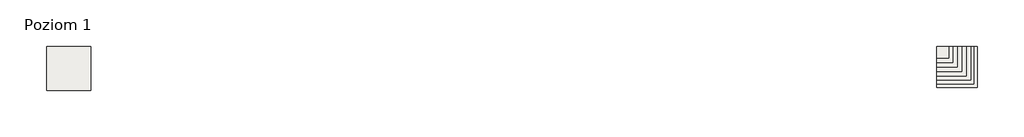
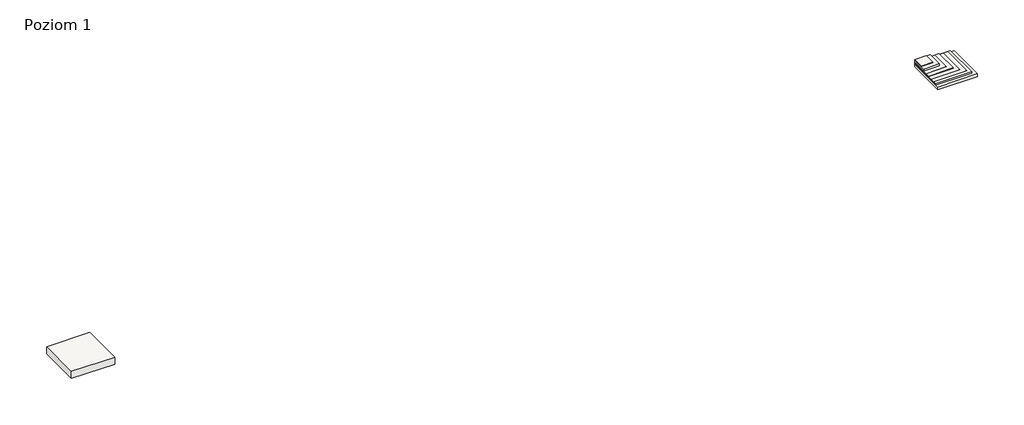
# One storey: 2 roofs.
"""IFC4 building model written with IfcOpenShell, lengths in millimetres."""

import ifcopenshell
import ifcopenshell.guid

model = None  # the IFC model being written
_history = None  # IfcOwnerHistory: only IFC2X3 demands one
_inside = {}  # id of a spatial element -> (the spatial element, [elements in it])
_under = {}  # id of a project, library or spatial element -> (it, [spatial elements below it])
_declared = {}  # id of a project -> (the project, [libraries it declares])
_typed = {}  # id of a type object -> (the type object, [elements of that type])
_made_of = {}  # id of a material, layer set ... -> (it, [elements and type objects made of it])


def new_model(schema):
    """Start an empty IFC model of exactly this schema.

    Asked for "IFC4X3", IfcOpenShell would pick the latest addendum, in which some entities
    have other attributes; the version numbers below select the first issue.
    IFC2X3 requires an IfcOwnerHistory on every rooted entity: one is made here for all.
    """
    global model, _history
    if schema == "IFC4X3":
        model = ifcopenshell.file(schema_version=(4, 3, 0, 0))
    else:
        model = ifcopenshell.file(schema=schema)
    _inside.clear()
    _under.clear()
    _declared.clear()
    _typed.clear()
    _made_of.clear()
    _history = None
    if model.schema == "IFC2X3":
        org = make("IfcOrganization", Name="unknown")
        user = make(
            "IfcPersonAndOrganization",
            ThePerson=make("IfcPerson", FamilyName="unknown"),
            TheOrganization=org,
        )
        app = make(
            "IfcApplication",
            ApplicationDeveloper=org,
            Version="unknown",
            ApplicationFullName="unknown",
            ApplicationIdentifier="unknown",
        )
        _history = make(
            "IfcOwnerHistory",
            OwningUser=user,
            OwningApplication=app,
            ChangeAction="ADDED",
            CreationDate=0,
        )
    return model


def make(cls, **values):
    """One entity of the class cls with the attributes given. An attribute that is None is left unset."""
    return model.create_entity(
        cls, **{name: value for name, value in values.items() if value is not None}
    )


def rooted(cls, **values):
    """An entity with a GlobalId (a new one), such as an element, a storey or a relation."""
    return make(cls, GlobalId=ifcopenshell.guid.new(), OwnerHistory=_history, **values)


def si_unit(unit_type, name, prefix=None):
    """IfcSIUnit, for example si_unit("LENGTHUNIT", "METRE", prefix="MILLI")."""
    return make("IfcSIUnit", UnitType=unit_type, Prefix=prefix, Name=name)


def assignment(units):
    """IfcUnitAssignment: the units of a project."""
    return None if units is None else make("IfcUnitAssignment", Units=units)


def point(xyz):
    """IfcCartesianPoint."""
    return None if xyz is None else make("IfcCartesianPoint", Coordinates=xyz)


def direction(xyz):
    """IfcDirection."""
    return None if xyz is None else make("IfcDirection", DirectionRatios=xyz)


def frame(location, z_axis=None, x_axis=None):
    """IfcAxis2Placement3D, a coordinate frame: its origin and axes. An axis left out is left unset."""
    return make(
        "IfcAxis2Placement3D",
        Location=point(location),
        Axis=direction(z_axis),
        RefDirection=direction(x_axis),
    )


def origin():
    """The frame at (0, 0, 0) with its axes left unset."""
    return frame((0.0, 0.0, 0.0))


def origin_with_axes():
    """The frame at (0, 0, 0) with the z axis (0, 0, 1) and the x axis (1, 0, 0) written out."""
    return frame((0.0, 0.0, 0.0), z_axis=(0.0, 0.0, 1.0), x_axis=(1.0, 0.0, 0.0))


def place(relative_to, where):
    """IfcLocalPlacement: puts the frame where relative to a parent placement (None: the world)."""
    return make(
        "IfcLocalPlacement", PlacementRelTo=relative_to, RelativePlacement=where
    )


def context(
    kind, dimensions, precision=None, world=None, true_north=None, identifier=None
):
    """IfcGeometricRepresentationContext, for example the 3D "Model" context."""
    return make(
        "IfcGeometricRepresentationContext",
        ContextIdentifier=identifier,
        ContextType=kind,
        CoordinateSpaceDimension=dimensions,
        Precision=precision,
        WorldCoordinateSystem=world,
        TrueNorth=true_north,
    )


def project(units=None, contexts=None):
    """IfcProject with its units and contexts."""
    return rooted(
        "IfcProject",
        Name="project",
        RepresentationContexts=contexts,
        UnitsInContext=assignment(units),
    )


def spatial(cls, under=None, at=None, **own):
    """A site, building, storey or space (cls), placed at a placement, below another one or the project."""
    s = rooted(cls, ObjectPlacement=at, **own)
    if under is not None:
        _under.setdefault(under.id(), (under, []))[1].append(s)
    return s


def polyline(points):
    """IfcPolyline through the points."""
    return make("IfcPolyline", Points=[point(p) for p in points])


def outline(outer, holes=None, kind="AREA"):
    """IfcArbitraryClosedProfileDef: a profile drawn as a closed curve; with holes, ...WithVoids."""
    if holes is None:
        return make("IfcArbitraryClosedProfileDef", ProfileType=kind, OuterCurve=outer)
    return make(
        "IfcArbitraryProfileDefWithVoids",
        ProfileType=kind,
        OuterCurve=outer,
        InnerCurves=holes,
    )


def extrude(swept, where, along, depth):
    """IfcExtrudedAreaSolid: the profile swept, set in the frame where, extruded along a direction by depth."""
    return make(
        "IfcExtrudedAreaSolid",
        SweptArea=swept,
        Position=where,
        ExtrudedDirection=direction(along),
        Depth=depth,
    )


def shape(context_of_items, identifier, shape_type, items):
    """IfcShapeRepresentation: the items that make up one representation, for example the "Body"."""
    return make(
        "IfcShapeRepresentation",
        ContextOfItems=context_of_items,
        RepresentationIdentifier=identifier,
        RepresentationType=shape_type,
        Items=items,
    )


def made_of(thing, what):
    """Note that an element or type object is made of a material, layer set ...; save() writes the relation."""
    if what is not None:
        _made_of.setdefault(what.id(), (what, []))[1].append(thing)
    return thing


def element(
    cls,
    number,
    at=None,
    inside=None,
    cuts=None,
    type_object=None,
    material=None,
    context=None,
    identifier="Body",
    shape_type=None,
    held_by="IfcProductDefinitionShape",
    body=None,
    shapes=None,
    **own,
):
    """One element of the class cls, such as IfcWall. Its Tag is "e" and its number.

    at: its placement. inside: the storey or other place that contains it. cuts: it is an
    opening in that element (IfcRelVoidsElement). A single representation is given by context,
    identifier, shape_type and body (its items); several are given by shapes. held_by: the class
    of the entity that holds the representations. save() writes the other relations.
    """
    e = rooted(cls, Tag="e%d" % number, ObjectPlacement=at, **own)
    if body is not None:
        shapes = [shape(context, identifier, shape_type, body)]
    if shapes is not None:
        e.Representation = make(held_by, Representations=shapes)
    if inside is not None:
        _inside.setdefault(inside.id(), (inside, []))[1].append(e)
    if cuts is not None:
        rooted(
            "IfcRelVoidsElement", RelatingBuildingElement=cuts, RelatedOpeningElement=e
        )
    if type_object is not None:
        _typed.setdefault(type_object.id(), (type_object, []))[1].append(e)
    return made_of(e, material)


def aggregate(whole, parts):
    """IfcRelAggregates: a whole, such as a stair, and the parts it consists of."""
    return rooted("IfcRelAggregates", RelatingObject=whole, RelatedObjects=parts)


def save(model, path):
    """Write the relations noted so far, then the file.

    IfcRelAggregates (storeys below a building ...), IfcRelContainedInSpatialStructure (elements
    in a storey), IfcRelDefinesByType, IfcRelAssociatesMaterial and IfcRelDeclares: one each for
    every whole, place, type object, material and project.
    """
    for whole, parts in _under.values():
        aggregate(whole, parts)
    for where, things in _inside.values():
        rooted(
            "IfcRelContainedInSpatialStructure",
            RelatedElements=things,
            RelatingStructure=where,
        )
    for kind, things in _typed.values():
        rooted("IfcRelDefinesByType", RelatedObjects=things, RelatingType=kind)
    for what, things in _made_of.values():
        rooted("IfcRelAssociatesMaterial", RelatedObjects=things, RelatingMaterial=what)
    for by, libraries in _declared.values():
        rooted("IfcRelDeclares", RelatingContext=by, RelatedDefinitions=libraries)
    model.write(path)


model = new_model("IFC4")

# Units and contexts
model_context = context("Model", 3, world=origin())
ifc_project = project(units=[si_unit("LENGTHUNIT", "METRE", prefix="MILLI")], contexts=[model_context])

# Site, building, storey
site = spatial("IfcSite", under=ifc_project)
building = spatial("IfcBuilding", under=site)
storey = spatial("IfcBuildingStorey", under=building, Name="Poziom 1", Elevation=0.0)

# Roofs
placement = place(None, origin())
element("IfcRoof", 1, ObjectType="Dachy zielone w uprawie półintensywnej – Atus CRICKET 40 - układ tradycyjny", at=placement, inside=storey, context=model_context, shape_type="SweptSolid", body=[
    extrude(outline(polyline([(-16494.8444454, -525.5470033), (-13494.8444454, -525.5470033), (-13494.8444454, -3525.5470033), (-16494.8444454, -3525.5470033), (-16494.8444454, -525.5470033)])), origin_with_axes(), (0.0, 0.0, 1.0), 521.0),
])
element("IfcRoof", 2, ObjectType="Dachy zielone w uprawie półintensywnej – Atus CRICKET 40 - układ tradycyjny", at=placement, inside=storey, context=model_context, shape_type="SweptSolid", body=[
    extrude(outline(polyline([(43905.1555546, -525.5470033), (44705.1555546, -525.5470033), (44705.1555546, -1325.5470033), (43905.1555546, -1325.5470033), (43905.1555546, -525.5470033)])), frame((0.0, 0.0, 496.0), z_axis=(0.0, 0.0, 1.0), x_axis=(1.0, 0.0, 0.0)), (0.0, 0.0, 1.0), 25.0),
    extrude(outline(polyline([(43905.1555546, -525.5470033), (45005.1555546, -525.5470033), (45005.1555546, -1625.5470033), (43905.1555546, -1625.5470033), (43905.1555546, -525.5470033)])), frame((0.0, 0.0, 346.0), z_axis=(0.0, 0.0, 1.0), x_axis=(1.0, 0.0, 0.0)), (0.0, 0.0, 1.0), 150.0),
    extrude(outline(polyline([(43905.1555546, -525.5470033), (45305.1555546, -525.5470033), (45305.1555546, -1925.5470033), (43905.1555546, -1925.5470033), (43905.1555546, -525.5470033)])), frame((0.0, 0.0, 345.0), z_axis=(0.0, 0.0, 1.0), x_axis=(1.0, 0.0, 0.0)), (0.0, 0.0, 1.0), 1.0),
    extrude(outline(polyline([(43905.1555546, -525.5470033), (45605.1555546, -525.5470033), (45605.1555546, -2225.5470033), (43905.1555546, -2225.5470033), (43905.1555546, -525.5470033)])), frame((0.0, 0.0, 305.0), z_axis=(0.0, 0.0, 1.0), x_axis=(1.0, 0.0, 0.0)), (0.0, 0.0, 1.0), 40.0),
    extrude(outline(polyline([(43905.1555546, -525.5470033), (45905.1555546, -525.5470033), (45905.1555546, -2525.5470033), (43905.1555546, -2525.5470033), (43905.1555546, -525.5470033)])), frame((0.0, 0.0, 302.0), z_axis=(0.0, 0.0, 1.0), x_axis=(1.0, 0.0, 0.0)), (0.0, 0.0, 1.0), 3.0),
    extrude(outline(polyline([(43905.1555546, -525.5470033), (46205.1555546, -525.5470033), (46205.1555546, -2825.5470033), (43905.1555546, -2825.5470033), (43905.1555546, -525.5470033)])), frame((0.0, 0.0, 300.0), z_axis=(0.0, 0.0, 1.0), x_axis=(1.0, 0.0, 0.0)), (0.0, 0.0, 1.0), 2.0),
    extrude(outline(polyline([(43905.1555546, -525.5470033), (46405.1555546, -525.5470033), (46405.1555546, -3090.4398026), (43905.1555546, -3090.4398026), (43905.1555546, -525.5470033)])), frame((0.0, 0.0, 200.0), z_axis=(0.0, 0.0, 1.0), x_axis=(1.0, 0.0, 0.0)), (0.0, 0.0, 1.0), 100.0),
    extrude(outline(polyline([(43905.1555546, -525.5470033), (46665.1555546, -525.5470033), (46665.1555546, -3325.5470033), (43905.1555546, -3325.5470033), (43905.1555546, -525.5470033)])), origin_with_axes(), (0.0, 0.0, 1.0), 200.0),
])

save(model, "model.ifc")
